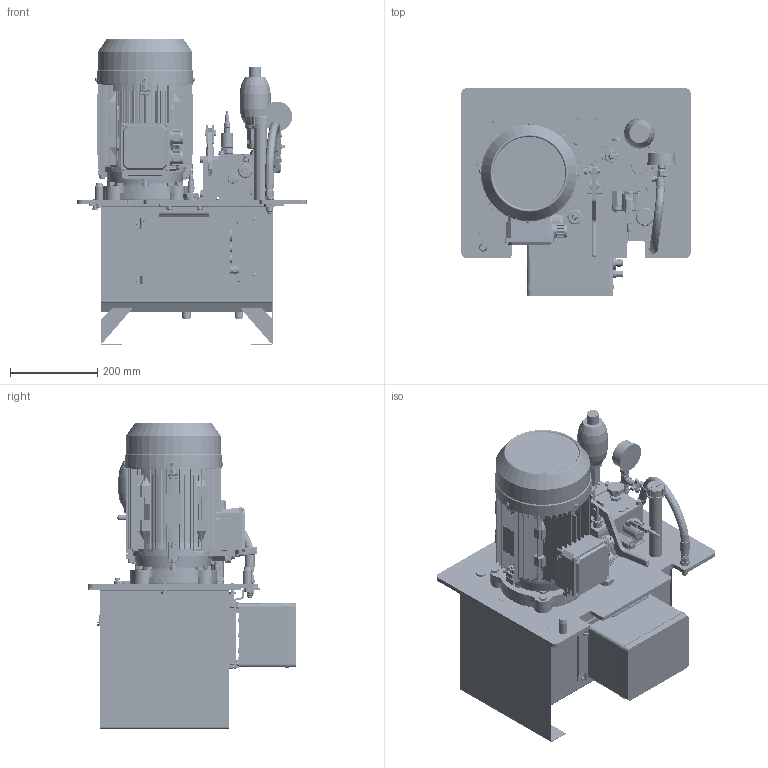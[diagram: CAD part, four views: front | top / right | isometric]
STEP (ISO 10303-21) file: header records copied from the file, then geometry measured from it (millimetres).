
FILE_DESCRIPTION(/* description */ (''),/* implementation_level */ '2;1');
FILE_NAME(/* name */ 'C:\Users\nemgal01\Desktop\STEP\73168.stp',/* time_stamp */ '2017-03-09T12:35:37+01:00',/* author */ ('nemgal01'),/* organization */ (''),/* preprocessor_version */ 'ST-DEVELOPER v16.1',/* originating_system */ 'Autodesk Inventor 2016',/* authorisation */ '');
FILE_SCHEMA (('AUTOMOTIVE_DESIGN { 1 0 10303 214 3 1 1 }'));
Products named in the file (1): Assembly7_Shrinkwrap_1
Bounding box: 525 x 475.5 x 700.5 mm (x, y, z)
Volume: 23441638.7 mm3; surface area: 2659690.8 mm2
Topology: 2 solids, 8 shells, 6951 faces, 18851 edges, 12227 vertices
Faces by surface type: plane 4391, cylinder 1469, cone 625, bspline 286, torus 164, sphere 16
Full cylindrical faces by diameter (mm): 1.562 x2, 5 x10, 5.459 x4, 6 x1, 6.299 x1, 7.323 x7, 7.7 x1, 8 x32, 8.376 x1, 8.5 x5, 8.7 x4, 8.89 x1, 9 x8, 9.188 x4, 9.2 x2, 9.42 x1, 9.5 x5, 9.6 x4, 9.954 x1, 10 x31, 10.973 x1, 11.11 x1, 11.12 x1, 11.4 x6, 11.445 x1, 12 x2, 12.125 x1, 12.217 x4, 12.7 x1, 13 x8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
Entity records: 241206 total; most frequent: CARTESIAN_POINT 64945, ORIENTED_EDGE 36576, DIRECTION 33558, EDGE_CURVE 18276, VERTEX_POINT 12083, AXIS2_PLACEMENT_3D 11497, LINE 10564, VECTOR 10564
